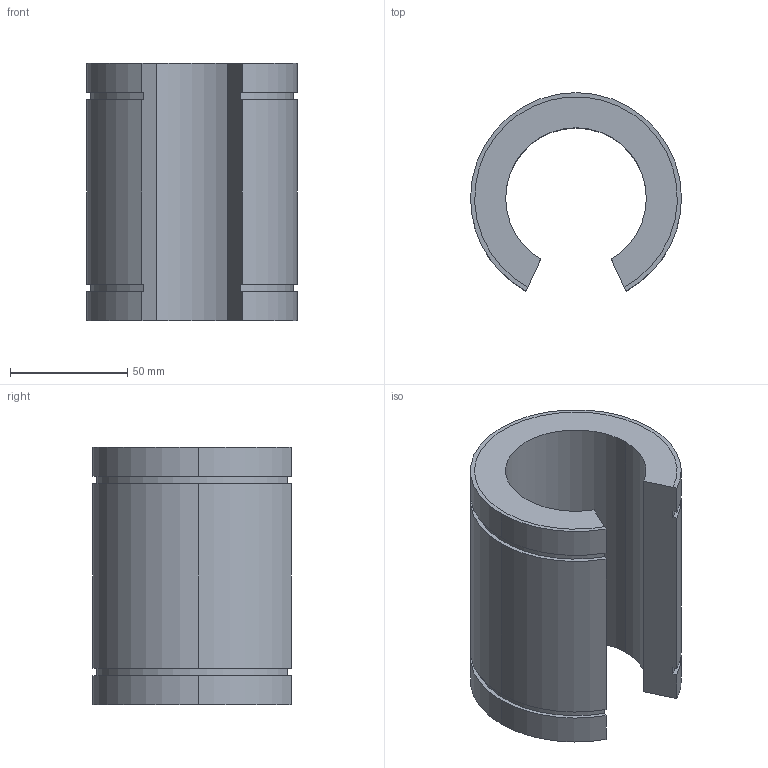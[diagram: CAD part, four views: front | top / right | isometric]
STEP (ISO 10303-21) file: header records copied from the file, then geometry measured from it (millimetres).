
FILE_DESCRIPTION((''),'2;1');
FILE_NAME('C:\Documents and Settings\ｿﾀﾀ蠑ｷ1\ｹﾙﾅﾁ ﾈｭｸ饅\ｺﾎﾇｰﾆﾄﾀﾏ\ﾁｦﾇｰ\LM__UUOP\LM60UUOP.stp','2005-06-14T16:19:15',('ｿﾀﾀ蠑ｷ1'),(''),'Autodesk Inventor 9','Autodesk Inventor 9','');
FILE_SCHEMA(('AUTOMOTIVE_DESIGN { 1 0 10303 214 1 1 1 1 }'));
Length unit declared in the file: millimetre
Products named in the file (1): LM__
Bounding box: 90 x 84.61 x 110 mm (x, y, z)
Volume: 323565.8 mm3; surface area: 54276.3 mm2
Topology: 1 solids, 1 shells, 26 faces, 72 edges, 48 vertices
Faces by surface type: cylinder 16, plane 10
Entity records: 873 total; most frequent: DIRECTION 160, CARTESIAN_POINT 147, ORIENTED_EDGE 144, EDGE_CURVE 72, AXIS2_PLACEMENT_3D 61, VERTEX_POINT 48, VECTOR 38, LINE 38
